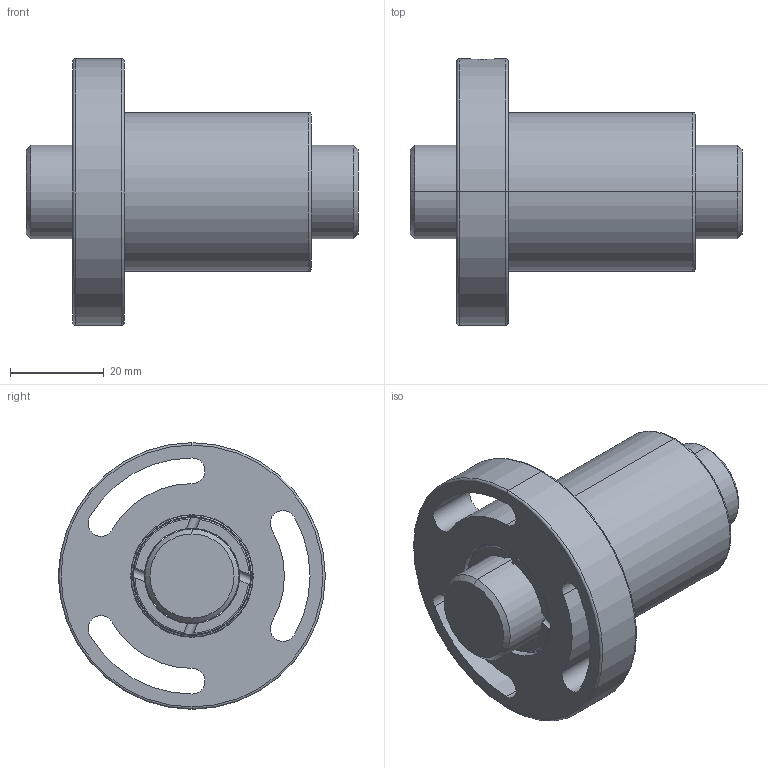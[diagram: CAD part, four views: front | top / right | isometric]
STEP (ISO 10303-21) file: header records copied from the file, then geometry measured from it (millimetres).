
FILE_DESCRIPTION (( 'STEP AP203' ), '1' );
FILE_NAME ('SFCR02005T4-C.STEP', '2020-06-18T01:49:30', ( '' ), ( '' ), 'SwSTEP 2.0', 'SolidWorks 2013', '' );
FILE_SCHEMA (( 'CONFIG_CONTROL_DESIGN' ));
Length unit declared in the file: millimetre
Products named in the file (1): SFCR02005T4-C
Bounding box: 71 x 57 x 57 mm (x, y, z)
Volume: 62796.2 mm3; surface area: 22571.6 mm2
Topology: 2 solids, 2 shells, 107 faces, 281 edges, 182 vertices
Faces by surface type: cylinder 56, torus 26, plane 20, cone 4, bspline 1
Entity records: 4511 total; most frequent: CARTESIAN_POINT 1755, DIRECTION 586, ORIENTED_EDGE 562, EDGE_CURVE 281, AXIS2_PLACEMENT_3D 261, VERTEX_POINT 182, CIRCLE 154, EDGE_LOOP 123
